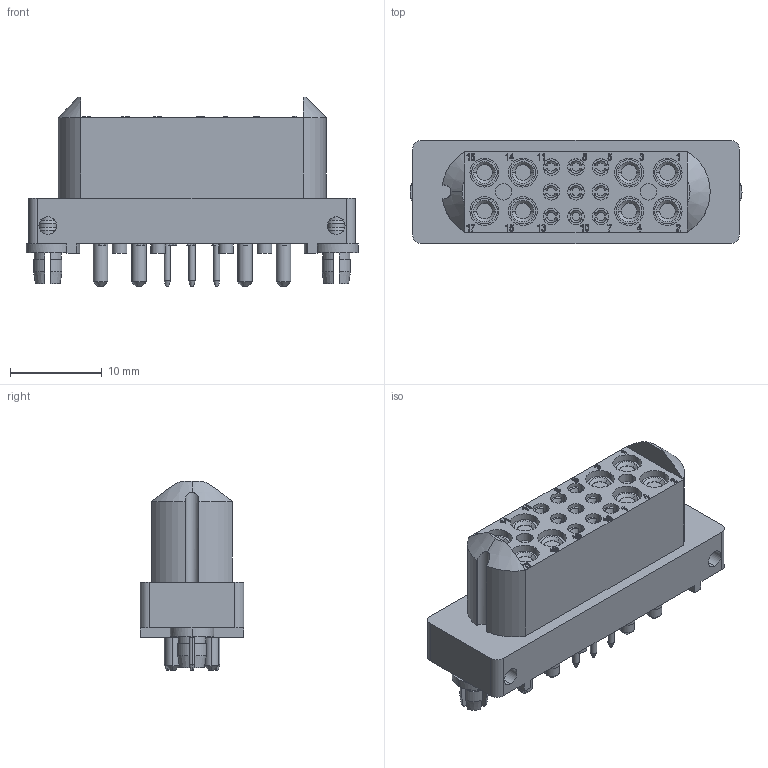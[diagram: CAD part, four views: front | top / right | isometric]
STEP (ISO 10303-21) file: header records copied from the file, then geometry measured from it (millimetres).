
FILE_DESCRIPTION (( 'STEP AP203' ), '1' );
FILE_NAME ('GFSH89F3N.STEP', '2025-01-08T04:23:13', ( '' ), ( '' ), 'SwSTEP 2.0', 'SolidWorks 2021', '' );
FILE_SCHEMA (( 'CONFIG_CONTROL_DESIGN' ));
Length unit declared in the file: millimetre
Products named in the file (1): GFSH89F3N
Bounding box: 36.25 x 11.3 x 20.65 mm (x, y, z)
Volume: 4199.4 mm3; surface area: 2961.5 mm2
Topology: 1 solids, 1 shells, 1390 faces, 3706 edges, 2392 vertices
Faces by surface type: plane 769, cylinder 271, bspline 243, cone 107
Entity records: 55661 total; most frequent: CARTESIAN_POINT 21904, ORIENTED_EDGE 7412, DIRECTION 6256, EDGE_CURVE 3706, VERTEX_POINT 2392, LINE 2192, VECTOR 2192, AXIS2_PLACEMENT_3D 2032
